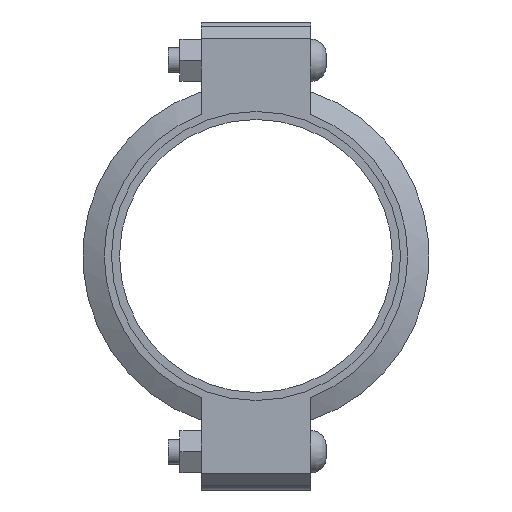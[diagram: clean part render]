
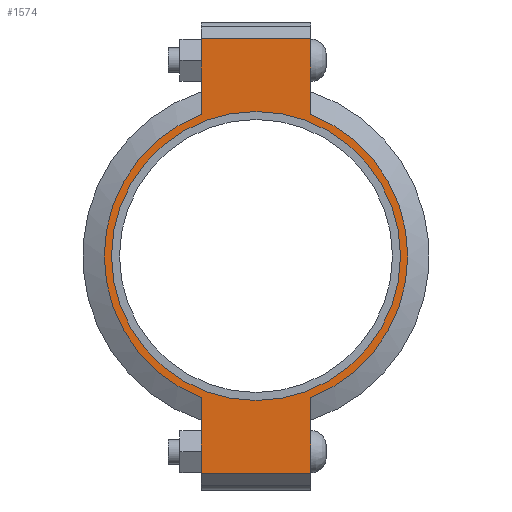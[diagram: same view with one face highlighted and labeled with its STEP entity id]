
A CAD part, left-side view. The second image highlights one B-rep face of the part: STEP entity #1574.
In plain terms, the highlighted planar face has unit normal (-1, 0, 0) as drawn and (0, 0, 1) by its records, which use the part's own axes.
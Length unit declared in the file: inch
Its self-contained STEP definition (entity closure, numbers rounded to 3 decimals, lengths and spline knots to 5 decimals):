
#198=LINE('',#2756,#291);
#206=LINE('',#2792,#299);
#213=LINE('',#2813,#306);
#222=LINE('',#2845,#315);
#223=LINE('',#2849,#316);
#224=LINE('',#2851,#317);
#291=VECTOR('',#2244,0.3937);
#299=VECTOR('',#2260,0.3937);
#306=VECTOR('',#2279,0.3937);
#315=VECTOR('',#2304,0.3937);
#316=VECTOR('',#2309,0.3937);
#317=VECTOR('',#2310,0.3937);
#373=FACE_BOUND('',#551,.T.);
#445=FACE_OUTER_BOUND('',#550,.T.);
#550=EDGE_LOOP('',(#1315,#1316,#1317,#1318,#1319,#1320,#1321,#1322));
#551=EDGE_LOOP('',(#1323));
#623=CIRCLE('',#1802,4.3125);
#649=CIRCLE('',#1861,4.53);
#650=CIRCLE('',#1862,4.53);
#715=VERTEX_POINT('',#2572);
#758=VERTEX_POINT('',#2753);
#759=VERTEX_POINT('',#2755);
#770=VERTEX_POINT('',#2787);
#771=VERTEX_POINT('',#2791);
#778=VERTEX_POINT('',#2810);
#779=VERTEX_POINT('',#2812);
#789=VERTEX_POINT('',#2848);
#790=VERTEX_POINT('',#2850);
#871=EDGE_CURVE('',#715,#715,#623,.T.);
#932=EDGE_CURVE('',#759,#758,#198,.T.);
#946=EDGE_CURVE('',#771,#770,#206,.T.);
#956=EDGE_CURVE('',#779,#778,#213,.T.);
#971=EDGE_CURVE('',#771,#758,#222,.T.);
#972=EDGE_CURVE('',#770,#779,#649,.T.);
#973=EDGE_CURVE('',#789,#778,#223,.T.);
#974=EDGE_CURVE('',#789,#790,#224,.T.);
#975=EDGE_CURVE('',#790,#759,#650,.T.);
#1315=ORIENTED_EDGE('',*,*,#971,.F.);
#1316=ORIENTED_EDGE('',*,*,#946,.T.);
#1317=ORIENTED_EDGE('',*,*,#972,.T.);
#1318=ORIENTED_EDGE('',*,*,#956,.T.);
#1319=ORIENTED_EDGE('',*,*,#973,.F.);
#1320=ORIENTED_EDGE('',*,*,#974,.T.);
#1321=ORIENTED_EDGE('',*,*,#975,.T.);
#1322=ORIENTED_EDGE('',*,*,#932,.T.);
#1323=ORIENTED_EDGE('',*,*,#871,.T.);
#1416=PLANE('',#1860);
#1574=ADVANCED_FACE('',(#445,#373),#1416,.T.);
#1802=AXIS2_PLACEMENT_3D('',#2574,#2120,#2121);
#1860=AXIS2_PLACEMENT_3D('',#2846,#2305,#2306);
#1861=AXIS2_PLACEMENT_3D('',#2847,#2307,#2308);
#1862=AXIS2_PLACEMENT_3D('',#2852,#2311,#2312);
#2120=DIRECTION('center_axis',(0.,0.,-1.));
#2121=DIRECTION('ref_axis',(1.,0.,0.));
#2244=DIRECTION('',(1.,0.,0.));
#2260=DIRECTION('',(-1.,0.,0.));
#2279=DIRECTION('',(-1.,0.,0.));
#2304=DIRECTION('',(0.,-1.,0.));
#2305=DIRECTION('center_axis',(0.,0.,1.));
#2306=DIRECTION('ref_axis',(-1.,0.,0.));
#2307=DIRECTION('center_axis',(0.,0.,1.));
#2308=DIRECTION('ref_axis',(1.,0.,0.));
#2309=DIRECTION('',(0.,1.,0.));
#2310=DIRECTION('',(1.,0.,0.));
#2311=DIRECTION('center_axis',(0.,0.,1.));
#2312=DIRECTION('ref_axis',(1.,0.,0.));
#2572=CARTESIAN_POINT('',(-4.3125,0.,1.16));
#2574=CARTESIAN_POINT('Origin',(0.,0.,1.16));
#2753=CARTESIAN_POINT('',(6.485,-1.63,1.16));
#2755=CARTESIAN_POINT('',(4.22658,-1.63,1.16));
#2756=CARTESIAN_POINT('',(6.985,-1.63,1.16));
#2787=CARTESIAN_POINT('',(4.22658,1.63,1.16));
#2791=CARTESIAN_POINT('',(6.485,1.63,1.16));
#2792=CARTESIAN_POINT('',(-6.985,1.63,1.16));
#2810=CARTESIAN_POINT('',(-6.485,1.63,1.16));
#2812=CARTESIAN_POINT('',(-4.22658,1.63,1.16));
#2813=CARTESIAN_POINT('',(-6.985,1.63,1.16));
#2845=CARTESIAN_POINT('',(6.485,-0.815,1.16));
#2846=CARTESIAN_POINT('Origin',(0.,0.,
1.16));
#2847=CARTESIAN_POINT('Origin',(0.,0.,1.16));
#2848=CARTESIAN_POINT('',(-6.485,-1.63,1.16));
#2849=CARTESIAN_POINT('',(-6.485,0.815,1.16));
#2850=CARTESIAN_POINT('',(-4.22658,-1.63,1.16));
#2851=CARTESIAN_POINT('',(6.985,-1.63,1.16));
#2852=CARTESIAN_POINT('Origin',(0.,0.,1.16));
